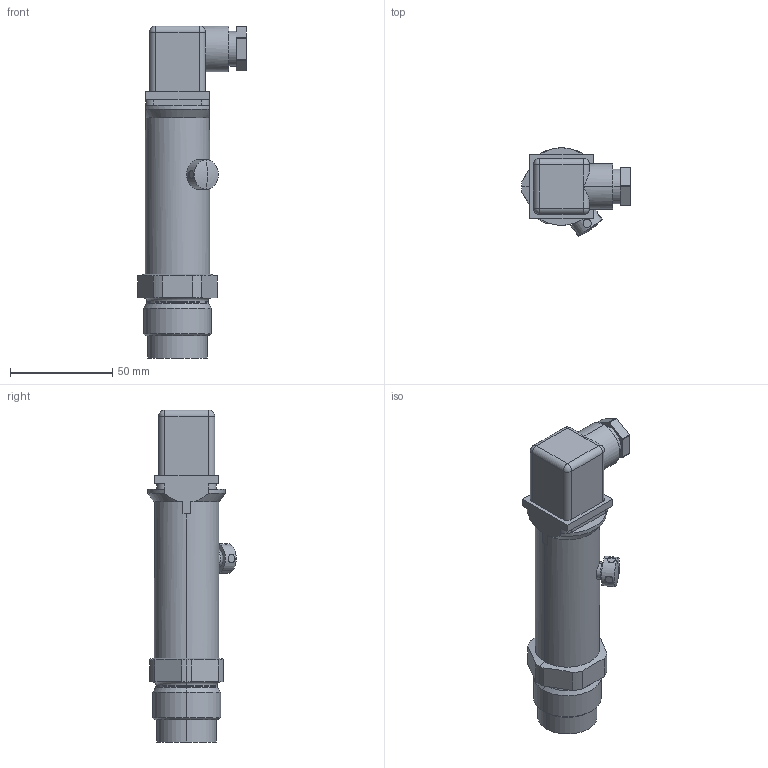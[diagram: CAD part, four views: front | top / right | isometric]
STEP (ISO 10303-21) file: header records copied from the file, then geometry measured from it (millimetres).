
FILE_DESCRIPTION(('starvars output'),'1');
FILE_NAME('cv20241203084844000032980.stp','08:48:45 2024/12/03',('Thomas Industrial Network Germany GmbH'),(' '),'Spatial InterOp 3D',' ',' ');
FILE_SCHEMA(('AP242_MANAGED_MODEL_BASED_3D_ENGINEERING_MIM_LF {1 0 10303 442 2 1 4}'));
Length unit declared in the file: millimetre
Products named in the file (1): 1
Bounding box: 53.2 x 43.27 x 162.5 mm (x, y, z)
Volume: 139063 mm3; surface area: 21451.8 mm2
Topology: 1 solids, 1 shells, 131 faces, 324 edges, 199 vertices
Faces by surface type: cylinder 55, plane 54, cone 10, torus 8, sphere 4
Entity records: 5246 total; most frequent: CARTESIAN_POINT 1053, DIRECTION 692, ORIENTED_EDGE 636, EDGE_CURVE 318, AXIS2_PLACEMENT_3D 272, VERTEX_POINT 199, LINE 148, VECTOR 148
